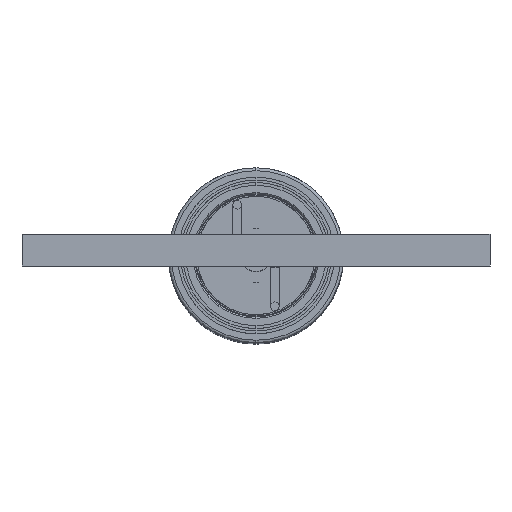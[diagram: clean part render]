
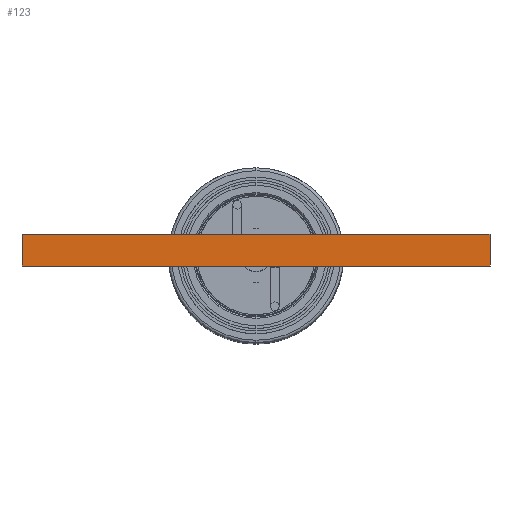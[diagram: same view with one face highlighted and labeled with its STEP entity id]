
A CAD part, top view. The second image highlights one B-rep face of the part: STEP entity #123.
In plain terms, the highlighted planar face has unit normal (0, 0, 1).
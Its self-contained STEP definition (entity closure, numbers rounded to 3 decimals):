
#123=ADVANCED_FACE('',(#271),#2813,.T.);
#271=FACE_OUTER_BOUND('',#419,.T.);
#419=EDGE_LOOP('',(#600,#601,#602,#603));
#600=ORIENTED_EDGE('',*,*,#1420,.T.);
#601=ORIENTED_EDGE('',*,*,#1421,.T.);
#602=ORIENTED_EDGE('',*,*,#1422,.F.);
#603=ORIENTED_EDGE('',*,*,#1418,.F.);
#1418=EDGE_CURVE('',#2456,#2457,#2280,.T.);
#1420=EDGE_CURVE('',#2456,#2458,#2282,.T.);
#1421=EDGE_CURVE('',#2458,#2459,#2283,.T.);
#1422=EDGE_CURVE('',#2457,#2459,#2284,.T.);
#2280=B_SPLINE_CURVE_WITH_KNOTS('',1,(#3858,#3859),.UNSPECIFIED.,.F.,.F.,
(2,2),(0.,160.06),.UNSPECIFIED.);
#2282=B_SPLINE_CURVE_WITH_KNOTS('',1,(#3862,#3863),.UNSPECIFIED.,.F.,.F.,
(2,2),(-47.603,-36.917),.UNSPECIFIED.);
#2283=B_SPLINE_CURVE_WITH_KNOTS('',1,(#3864,#3865),.UNSPECIFIED.,.F.,.F.,
(2,2),(0.,160.06),.UNSPECIFIED.);
#2284=B_SPLINE_CURVE_WITH_KNOTS('',1,(#3866,#3867),.UNSPECIFIED.,.F.,.F.,
(2,2),(-47.603,-36.917),.UNSPECIFIED.);
#2456=VERTEX_POINT('',#3836);
#2457=VERTEX_POINT('',#3837);
#2458=VERTEX_POINT('',#3838);
#2459=VERTEX_POINT('',#3839);
#2813=PLANE('',#2937);
#2937=AXIS2_PLACEMENT_3D('',#3824,#3267,$);
#3267=DIRECTION('',(0.,0.,1.));
#3824=CARTESIAN_POINT('',(-80.055,5.343,0.));
#3836=CARTESIAN_POINT('',(-80.055,5.343,0.));
#3837=CARTESIAN_POINT('',(80.055,5.343,0.));
#3838=CARTESIAN_POINT('',(-80.055,-5.343,0.));
#3839=CARTESIAN_POINT('',(80.055,-5.343,0.));
#3858=CARTESIAN_POINT('',(-80.055,5.343,0.));
#3859=CARTESIAN_POINT('',(80.055,5.343,0.));
#3862=CARTESIAN_POINT('',(-80.055,5.343,0.));
#3863=CARTESIAN_POINT('',(-80.055,-5.343,0.));
#3864=CARTESIAN_POINT('',(-80.055,-5.343,0.));
#3865=CARTESIAN_POINT('',(80.055,-5.343,0.));
#3866=CARTESIAN_POINT('',(80.055,5.343,0.));
#3867=CARTESIAN_POINT('',(80.055,-5.343,0.));
